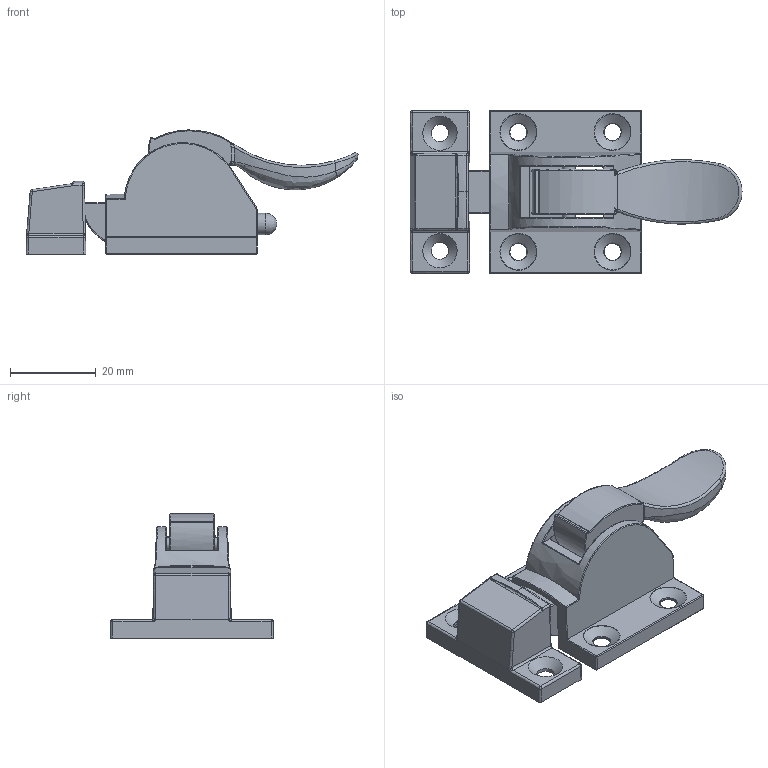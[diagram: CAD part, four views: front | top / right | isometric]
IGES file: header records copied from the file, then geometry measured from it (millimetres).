
Global section: file name: DR_D-205-1; native system: Autodesk Inventor 2015; preprocessor: unknown; author: Administrator; date: 20170726.111054; units: millimetre
Bounding box: 77.59 x 38 x 29 mm (x, y, z)
Volume: 15264.1 mm3; surface area: 12618.6 mm2
Topology: 5 solids, 5 shells, 331 faces, 792 edges, 456 vertices
Faces by surface type: bspline 331
